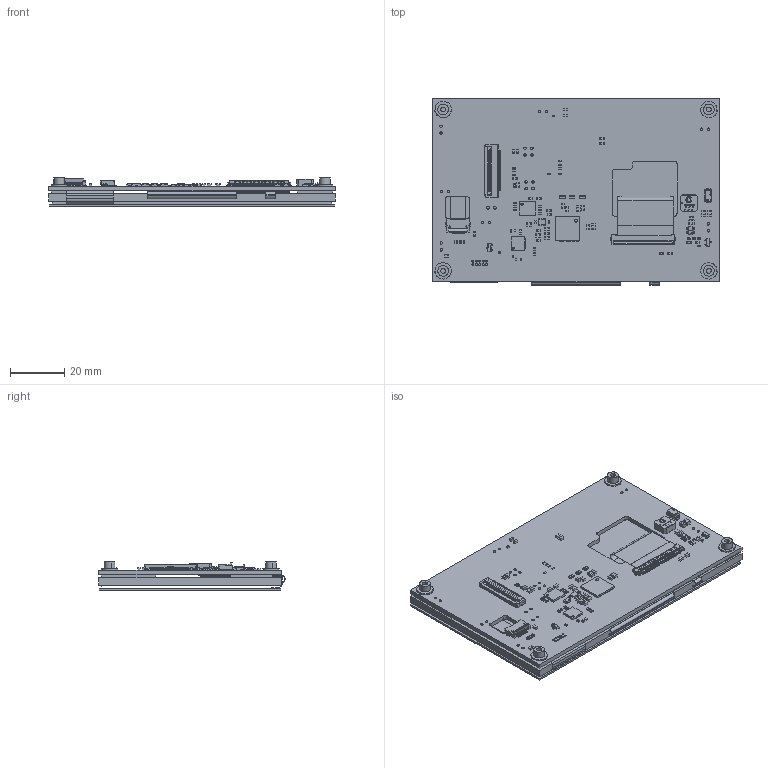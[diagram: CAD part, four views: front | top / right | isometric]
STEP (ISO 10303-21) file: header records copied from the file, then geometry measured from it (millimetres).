
FILE_DESCRIPTION (( 'STEP AP214' ), '1' );
FILE_NAME ('CFA800480E0-043SC.STEP', '2025-12-11T21:27:50', ( '' ), ( '' ), 'SwSTEP 2.0', 'SolidWorks 2021', '' );
FILE_SCHEMA (( 'AUTOMOTIVE_DESIGN' ));
Length unit declared in the file: millimetre
Products named in the file (1): CFA800480E0-043SC
Bounding box: 105.5 x 68.49 x 10.3 mm (x, y, z)
Surface area: 43399.3 mm2 (no closed solid volume)
Topology: 0 solids, 598 shells, 2355 faces, 19878 edges, 17839 vertices
Faces by surface type: plane 1866, cylinder 479, sphere 4, bspline 4, torus 2
Entity records: 214608 total; most frequent: CARTESIAN_POINT 55268, DIRECTION 23943, ORIENTED_EDGE 22899, EDGE_CURVE 19876, VERTEX_POINT 17839, LINE 12811, VECTOR 12811, AXIS2_PLACEMENT_3D 5566
